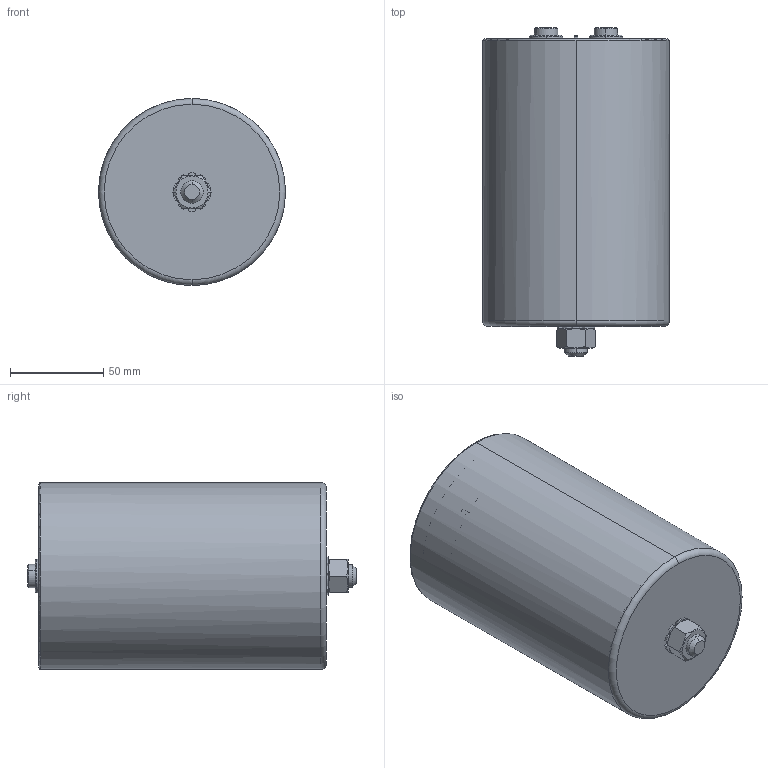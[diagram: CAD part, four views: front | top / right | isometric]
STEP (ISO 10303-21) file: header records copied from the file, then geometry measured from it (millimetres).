
FILE_DESCRIPTION (( 'STEP AP214' ), '1' );
FILE_NAME ('B25696 Series D100Hc154Ht160.STEP', '2025-03-20T05:44:01', ( '' ), ( '' ), 'SwSTEP 2.0', 'SolidWorks 2019', '' );
FILE_SCHEMA (( 'AUTOMOTIVE_DESIGN' ));
Length unit declared in the file: millimetre
Products named in the file (1): B25696 Series D100Hc154Ht160
Bounding box: 100 x 176 x 100 mm (x, y, z)
Volume: 108244.4 mm3; surface area: 143660.9 mm2
Topology: 1 solids, 5 shells, 368 faces, 936 edges, 591 vertices
Faces by surface type: plane 166, cylinder 132, cone 50, torus 20
Entity records: 11507 total; most frequent: CARTESIAN_POINT 2600, DIRECTION 1905, ORIENTED_EDGE 1864, EDGE_CURVE 932, AXIS2_PLACEMENT_3D 748, VERTEX_POINT 591, LINE 409, VECTOR 409
